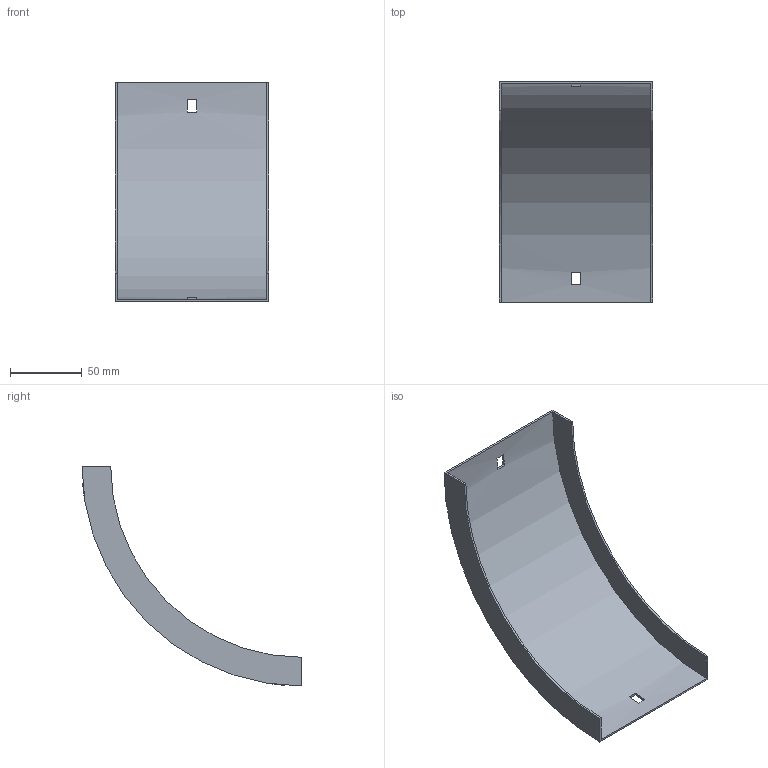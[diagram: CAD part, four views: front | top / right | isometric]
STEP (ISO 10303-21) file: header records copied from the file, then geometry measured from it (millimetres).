
FILE_DESCRIPTION (( 'STEP AP214' ), '1' );
FILE_NAME ('33N1B100.step', '2025-02-21T09:17:55', ( '' ), ( '' ), 'SwSTEP 2.0', 'SolidWorks 2023', '' );
FILE_SCHEMA (( 'AUTOMOTIVE_DESIGN' ));
Length unit declared in the file: millimetre
Products named in the file (1): 33N1B100
Bounding box: 107 x 153.5 x 153.5 mm (x, y, z)
Volume: 50778.5 mm3; surface area: 68862.9 mm2
Topology: 1 solids, 1 shells, 18 faces, 48 edges, 32 vertices
Faces by surface type: plane 14, cylinder 4
Entity records: 599 total; most frequent: DIRECTION 102, CARTESIAN_POINT 99, ORIENTED_EDGE 96, EDGE_CURVE 48, AXIS2_PLACEMENT_3D 35, VERTEX_POINT 32, LINE 32, VECTOR 32
